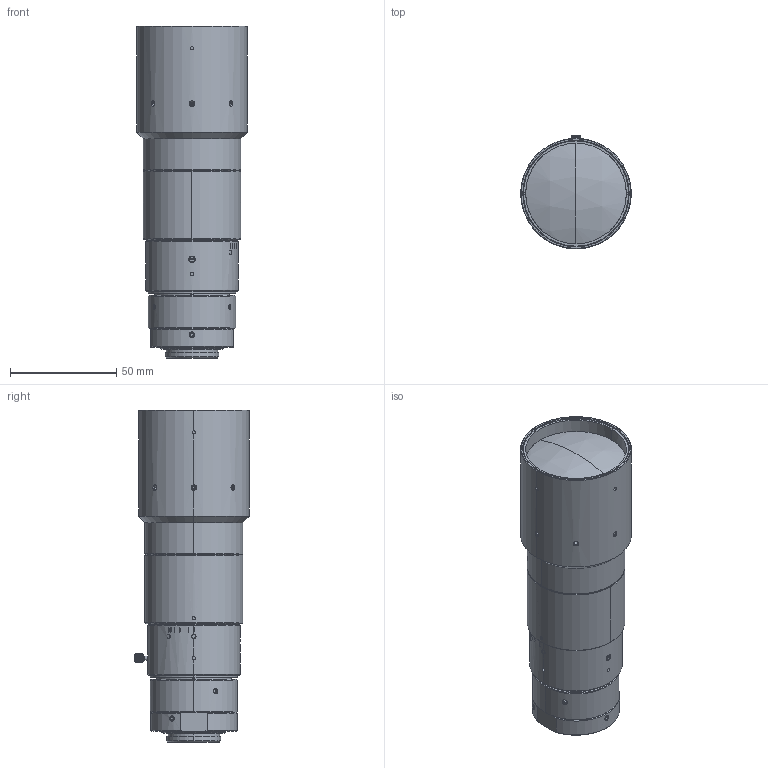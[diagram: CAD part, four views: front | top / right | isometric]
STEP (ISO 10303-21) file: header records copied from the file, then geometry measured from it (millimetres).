
FILE_DESCRIPTION (( 'STEP AP214' ), '1' );
FILE_NAME ('MML05-SR110VI-18C.STEP', '2026-06-18T05:36:30', ( '' ), ( '' ), 'SwSTEP 2.0', 'SolidWorks 2025', '' );
FILE_SCHEMA (( 'AUTOMOTIVE_DESIGN' ));
Length unit declared in the file: millimetre
Products named in the file (1): MML05-SR110VI-18C
Bounding box: 52 x 53.75 x 156.22 mm (x, y, z)
Volume: 239457.8 mm3; surface area: 32378.8 mm2
Topology: 1 solids, 1 shells, 718 faces, 1809 edges, 1155 vertices
Faces by surface type: cylinder 254, plane 208, cone 162, bspline 84, torus 6, sphere 4
Entity records: 31510 total; most frequent: CARTESIAN_POINT 15603, ORIENTED_EDGE 3618, DIRECTION 2772, EDGE_CURVE 1809, VERTEX_POINT 1155, AXIS2_PLACEMENT_3D 1051, EDGE_LOOP 780, B_SPLINE_CURVE_WITH_KNOTS 723
